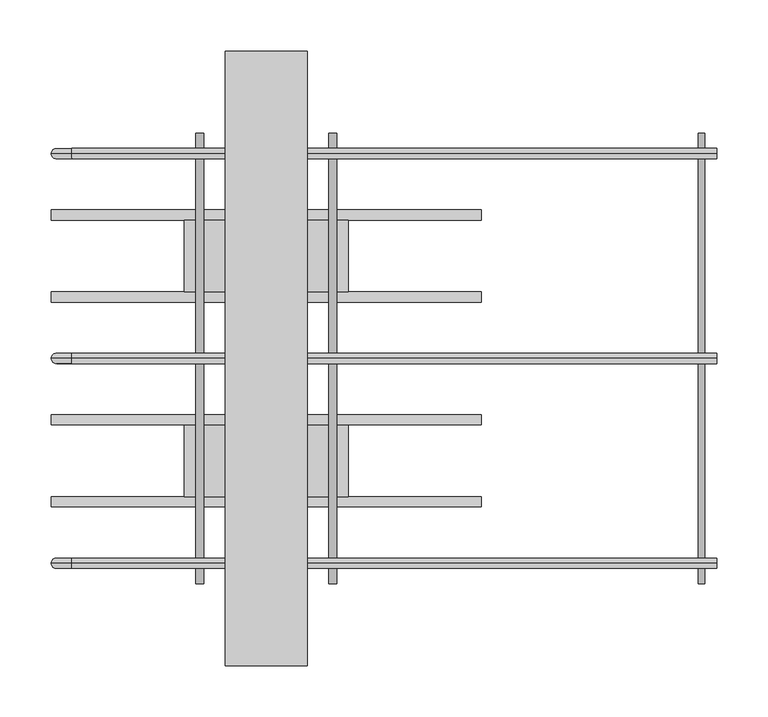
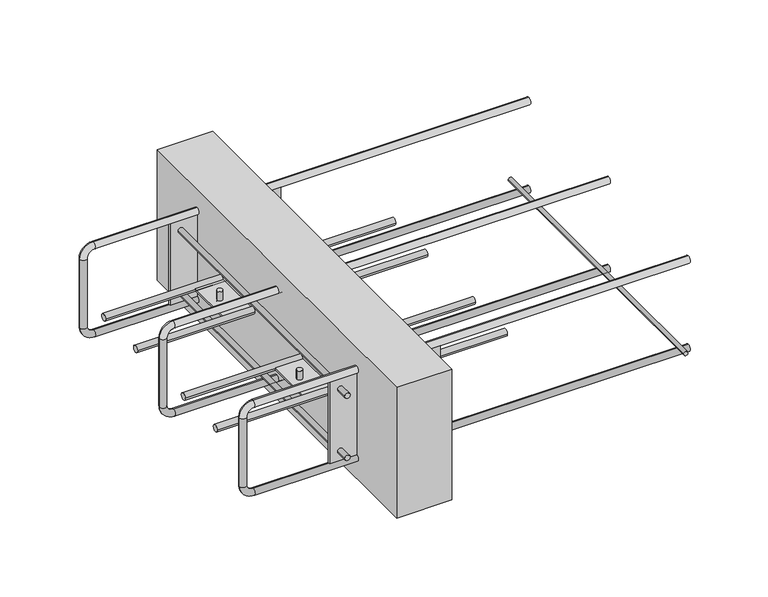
"""IFC4 building model written with IfcOpenShell, lengths in millimetres: proxy geometry, ACINOXplus_Typenreihe_Ux-Ox : UA+ S2."""

from ifc_helpers import new_model, si_unit, point, frame, frame_2d, origin, place, context, project, spatial, polyline, circle_curve, ellipse_curve, trimmed, segment, composite_curve, outline, extrude, source, transform, mapped, element, save
from ifc_brep_helpers import plane_surface, cylinder_surface, revolved_surface, advanced_brep


def generic_models_b1a7b40b(model_context):
    return source(origin(), model_context, "Body", "SolidModel", [
        extrude(outline(composite_curve([segment(trimmed(circle_curve(frame_2d((-159.5, 425.0)), 3.0), [point((-159.5, 428.0))], [point((-159.5, 422.0))], False, "CARTESIAN"), True, "CONTINUOUS"), segment(trimmed(circle_curve(frame_2d((-159.5, 425.0)), 3.0), [point((-159.5, 422.0))], [point((-159.5, 428.0))], False, "CARTESIAN"), True, "CONTINUOUS")], self_intersect=False)), frame((0.0, -220.0, 0.0), z_axis=(0.0, 1.0, 0.0), x_axis=(0.0, 0.0, 1.0)), (0.0, 0.0, 1.0), 440.0),
        extrude(outline(composite_curve([segment(trimmed(circle_curve(frame_2d((-140.0, -100.0)), 5.0), [point((-145.0, -100.0))], [point((-135.0, -100.0))], False, "CARTESIAN"), True, "CONTINUOUS"), segment(trimmed(circle_curve(frame_2d((-140.0, -100.0)), 5.0), [point((-135.0, -100.0))], [point((-145.0, -100.0))], False, "CARTESIAN"), True, "CONTINUOUS")], self_intersect=False)), frame((-210.0, 0.0, 0.0), z_axis=(1.0, 0.0, 0.0), x_axis=(0.0, 1.0, 0.0)), (0.0, 0.0, 1.0), 420.0),
        extrude(outline(composite_curve([segment(trimmed(circle_curve(frame_2d((-60.0, -100.0)), 5.0), [point((-65.0, -100.0))], [point((-55.0, -100.0))], False, "CARTESIAN"), True, "CONTINUOUS"), segment(trimmed(circle_curve(frame_2d((-60.0, -100.0)), 5.0), [point((-55.0, -100.0))], [point((-65.0, -100.0))], False, "CARTESIAN"), True, "CONTINUOUS")], self_intersect=False)), frame((-210.0, 0.0, 0.0), z_axis=(1.0, 0.0, 0.0), x_axis=(0.0, 1.0, 0.0)), (0.0, 0.0, 1.0), 420.0),
        extrude(outline(composite_curve([segment(trimmed(circle_curve(frame_2d((-65.0, -100.0)), 4.0), [point((-61.0, -100.0))], [point((-69.0, -100.0))], False, "CARTESIAN"), True, "CONTINUOUS"), segment(trimmed(circle_curve(frame_2d((-65.0, -100.0)), 4.0), [point((-69.0, -100.0))], [point((-61.0, -100.0))], False, "CARTESIAN"), True, "CONTINUOUS")], self_intersect=False)), frame((0.0, 0.0, -98.5), z_axis=(0.0, 0.0, 1.0), x_axis=(1.0, 0.0, 0.0)), (0.0, 0.0, 1.0), 13.5),
        extrude(outline(composite_curve([segment(trimmed(circle_curve(frame_2d((65.0, -100.0)), 4.0), [point((69.0, -100.0))], [point((61.0, -100.0))], False, "CARTESIAN"), True, "CONTINUOUS"), segment(trimmed(circle_curve(frame_2d((65.0, -100.0)), 4.0), [point((61.0, -100.0))], [point((69.0, -100.0))], False, "CARTESIAN"), True, "CONTINUOUS")], self_intersect=False)), frame((0.0, 0.0, -98.5), z_axis=(0.0, 0.0, 1.0), x_axis=(1.0, 0.0, 0.0)), (0.0, 0.0, 1.0), 13.5),
        extrude(outline(composite_curve([segment(trimmed(circle_curve(frame_2d((-65.0, -100.0)), 4.0), [point((-69.0, -100.0))], [point((-61.0, -100.0))], False, "CARTESIAN"), True, "CONTINUOUS"), segment(trimmed(circle_curve(frame_2d((-65.0, -100.0)), 4.0), [point((-61.0, -100.0))], [point((-69.0, -100.0))], False, "CARTESIAN"), True, "CONTINUOUS")], self_intersect=False)), frame((0.0, 0.0, -115.0), z_axis=(0.0, 0.0, 1.0), x_axis=(1.0, 0.0, 0.0)), (0.0, 0.0, 1.0), 13.5),
        extrude(outline(composite_curve([segment(trimmed(circle_curve(frame_2d((65.0, -100.0)), 4.0), [point((61.0, -100.0))], [point((69.0, -100.0))], False, "CARTESIAN"), True, "CONTINUOUS"), segment(trimmed(circle_curve(frame_2d((65.0, -100.0)), 4.0), [point((69.0, -100.0))], [point((61.0, -100.0))], False, "CARTESIAN"), True, "CONTINUOUS")], self_intersect=False)), frame((0.0, 0.0, -115.0), z_axis=(0.0, 0.0, 1.0), x_axis=(1.0, 0.0, 0.0)), (0.0, 0.0, 1.0), 13.5),
        extrude(outline(polyline([(80.0, -65.0), (80.0, -135.0), (-80.0, -135.0), (-80.0, -65.0), (80.0, -65.0)])), frame((0.0, 0.0, -101.5), z_axis=(0.0, 0.0, 1.0), x_axis=(1.0, 0.0, 0.0)), (0.0, 0.0, 1.0), 3.0),
        extrude(outline(composite_curve([segment(trimmed(circle_curve(frame_2d((60.0, -100.0)), 5.0), [point((55.0, -100.0))], [point((65.0, -100.0))], False, "CARTESIAN"), True, "CONTINUOUS"), segment(trimmed(circle_curve(frame_2d((60.0, -100.0)), 5.0), [point((65.0, -100.0))], [point((55.0, -100.0))], False, "CARTESIAN"), True, "CONTINUOUS")], self_intersect=False)), frame((-210.0, 0.0, 0.0), z_axis=(1.0, 0.0, 0.0), x_axis=(0.0, 1.0, 0.0)), (0.0, 0.0, 1.0), 420.0),
        extrude(outline(composite_curve([segment(trimmed(circle_curve(frame_2d((140.0, -100.0)), 5.0), [point((135.0, -100.0))], [point((145.0, -100.0))], False, "CARTESIAN"), True, "CONTINUOUS"), segment(trimmed(circle_curve(frame_2d((140.0, -100.0)), 5.0), [point((145.0, -100.0))], [point((135.0, -100.0))], False, "CARTESIAN"), True, "CONTINUOUS")], self_intersect=False)), frame((-210.0, 0.0, 0.0), z_axis=(1.0, 0.0, 0.0), x_axis=(0.0, 1.0, 0.0)), (0.0, 0.0, 1.0), 420.0),
        extrude(outline(composite_curve([segment(trimmed(circle_curve(frame_2d((-65.0, 100.0)), 4.0), [point((-61.0, 100.0))], [point((-69.0, 100.0))], False, "CARTESIAN"), True, "CONTINUOUS"), segment(trimmed(circle_curve(frame_2d((-65.0, 100.0)), 4.0), [point((-69.0, 100.0))], [point((-61.0, 100.0))], False, "CARTESIAN"), True, "CONTINUOUS")], self_intersect=False)), frame((0.0, 0.0, -98.5), z_axis=(0.0, 0.0, 1.0), x_axis=(1.0, 0.0, 0.0)), (0.0, 0.0, 1.0), 13.5),
        extrude(outline(composite_curve([segment(trimmed(circle_curve(frame_2d((65.0, 100.0)), 4.0), [point((69.0, 100.0))], [point((61.0, 100.0))], False, "CARTESIAN"), True, "CONTINUOUS"), segment(trimmed(circle_curve(frame_2d((65.0, 100.0)), 4.0), [point((61.0, 100.0))], [point((69.0, 100.0))], False, "CARTESIAN"), True, "CONTINUOUS")], self_intersect=False)), frame((0.0, 0.0, -98.5), z_axis=(0.0, 0.0, 1.0), x_axis=(1.0, 0.0, 0.0)), (0.0, 0.0, 1.0), 13.5),
        extrude(outline(composite_curve([segment(trimmed(circle_curve(frame_2d((-65.0, 100.0)), 4.0), [point((-69.0, 100.0))], [point((-61.0, 100.0))], False, "CARTESIAN"), True, "CONTINUOUS"), segment(trimmed(circle_curve(frame_2d((-65.0, 100.0)), 4.0), [point((-61.0, 100.0))], [point((-69.0, 100.0))], False, "CARTESIAN"), True, "CONTINUOUS")], self_intersect=False)), frame((0.0, 0.0, -115.0), z_axis=(0.0, 0.0, 1.0), x_axis=(1.0, 0.0, 0.0)), (0.0, 0.0, 1.0), 13.5),
        extrude(outline(composite_curve([segment(trimmed(circle_curve(frame_2d((65.0, 100.0)), 4.0), [point((61.0, 100.0))], [point((69.0, 100.0))], False, "CARTESIAN"), True, "CONTINUOUS"), segment(trimmed(circle_curve(frame_2d((65.0, 100.0)), 4.0), [point((69.0, 100.0))], [point((61.0, 100.0))], False, "CARTESIAN"), True, "CONTINUOUS")], self_intersect=False)), frame((0.0, 0.0, -115.0), z_axis=(0.0, 0.0, 1.0), x_axis=(1.0, 0.0, 0.0)), (0.0, 0.0, 1.0), 13.5),
        extrude(outline(polyline([(80.0, 135.0), (80.0, 65.0), (-80.0, 65.0), (-80.0, 135.0), (80.0, 135.0)])), frame((0.0, 0.0, -101.5), z_axis=(0.0, 0.0, 1.0), x_axis=(1.0, 0.0, 0.0)), (0.0, 0.0, 1.0), 3.0),
        extrude(outline(polyline([(40.0, 300.0), (40.0, -300.0), (-40.0, -300.0), (-40.0, 300.0), (40.0, 300.0)])), frame((0.0, 0.0, -200.0), z_axis=(0.0, 0.0, 1.0), x_axis=(1.0, 0.0, 0.0)), (0.0, 0.0, 1.0), 200.0),
        extrude(outline(polyline([(80.0, -198.5), (80.0, -201.5), (-80.0, -201.5), (-80.0, -198.5), (80.0, -198.5)])), frame((0.0, 0.0, -162.5), z_axis=(0.0, 0.0, 1.0), x_axis=(1.0, 0.0, 0.0)), (0.0, 0.0, 1.0), 125.0),
        extrude(outline(polyline([(80.0, 201.5), (80.0, 198.5), (-80.0, 198.5), (-80.0, 201.5), (80.0, 201.5)])), frame((0.0, 0.0, -162.5), z_axis=(0.0, 0.0, 1.0), x_axis=(1.0, 0.0, 0.0)), (0.0, 0.0, 1.0), 125.0),
        extrude(outline(composite_curve([segment(trimmed(circle_curve(frame_2d((-147.5, -65.0)), 4.0), [point((-147.5, -69.0))], [point((-147.5, -61.0))], False, "CARTESIAN"), True, "CONTINUOUS"), segment(trimmed(circle_curve(frame_2d((-147.5, -65.0)), 4.0), [point((-147.5, -61.0))], [point((-147.5, -69.0))], False, "CARTESIAN"), True, "CONTINUOUS")], self_intersect=False)), frame((0.0, 201.5, 0.0), z_axis=(0.0, 1.0, 0.0), x_axis=(0.0, 0.0, 1.0)), (0.0, 0.0, 1.0), 18.5),
        extrude(outline(composite_curve([segment(trimmed(circle_curve(frame_2d((-147.5, -65.0)), 4.0), [point((-147.5, -61.0))], [point((-147.5, -69.0))], False, "CARTESIAN"), True, "CONTINUOUS"), segment(trimmed(circle_curve(frame_2d((-147.5, -65.0)), 4.0), [point((-147.5, -69.0))], [point((-147.5, -61.0))], False, "CARTESIAN"), True, "CONTINUOUS")], self_intersect=False)), frame((0.0, -220.0, 0.0), z_axis=(0.0, 1.0, 0.0), x_axis=(0.0, 0.0, 1.0)), (0.0, 0.0, 1.0), 18.5),
        extrude(outline(composite_curve([segment(trimmed(circle_curve(frame_2d((-147.5, -65.0)), 4.0), [point((-147.5, -69.0))], [point((-147.5, -61.0))], False, "CARTESIAN"), True, "CONTINUOUS"), segment(trimmed(circle_curve(frame_2d((-147.5, -65.0)), 4.0), [point((-147.5, -61.0))], [point((-147.5, -69.0))], False, "CARTESIAN"), True, "CONTINUOUS")], self_intersect=False)), frame((0.0, -198.5, 0.0), z_axis=(0.0, 1.0, 0.0), x_axis=(0.0, 0.0, 1.0)), (0.0, 0.0, 1.0), 397.0),
        extrude(outline(composite_curve([segment(trimmed(circle_curve(frame_2d((-147.5, 65.0)), 4.0), [point((-147.5, 61.0))], [point((-147.5, 69.0))], False, "CARTESIAN"), True, "CONTINUOUS"), segment(trimmed(circle_curve(frame_2d((-147.5, 65.0)), 4.0), [point((-147.5, 69.0))], [point((-147.5, 61.0))], False, "CARTESIAN"), True, "CONTINUOUS")], self_intersect=False)), frame((0.0, 201.5, 0.0), z_axis=(0.0, 1.0, 0.0), x_axis=(0.0, 0.0, 1.0)), (0.0, 0.0, 1.0), 18.5),
        extrude(outline(composite_curve([segment(trimmed(circle_curve(frame_2d((-147.5, 65.0)), 4.0), [point((-147.5, 69.0))], [point((-147.5, 61.0))], False, "CARTESIAN"), True, "CONTINUOUS"), segment(trimmed(circle_curve(frame_2d((-147.5, 65.0)), 4.0), [point((-147.5, 61.0))], [point((-147.5, 69.0))], False, "CARTESIAN"), True, "CONTINUOUS")], self_intersect=False)), frame((0.0, -220.0, 0.0), z_axis=(0.0, 1.0, 0.0), x_axis=(0.0, 0.0, 1.0)), (0.0, 0.0, 1.0), 18.5),
        extrude(outline(composite_curve([segment(trimmed(circle_curve(frame_2d((-147.5, 65.0)), 4.0), [point((-147.5, 61.0))], [point((-147.5, 69.0))], False, "CARTESIAN"), True, "CONTINUOUS"), segment(trimmed(circle_curve(frame_2d((-147.5, 65.0)), 4.0), [point((-147.5, 69.0))], [point((-147.5, 61.0))], False, "CARTESIAN"), True, "CONTINUOUS")], self_intersect=False)), frame((0.0, -198.5, 0.0), z_axis=(0.0, 1.0, 0.0), x_axis=(0.0, 0.0, 1.0)), (0.0, 0.0, 1.0), 397.0),
        extrude(outline(composite_curve([segment(trimmed(circle_curve(frame_2d((-52.5, -65.0)), 4.0), [point((-52.5, -69.0))], [point((-52.5, -61.0))], False, "CARTESIAN"), True, "CONTINUOUS"), segment(trimmed(circle_curve(frame_2d((-52.5, -65.0)), 4.0), [point((-52.5, -61.0))], [point((-52.5, -69.0))], False, "CARTESIAN"), True, "CONTINUOUS")], self_intersect=False)), frame((0.0, 201.5, 0.0), z_axis=(0.0, 1.0, 0.0), x_axis=(0.0, 0.0, 1.0)), (0.0, 0.0, 1.0), 18.5),
        extrude(outline(composite_curve([segment(trimmed(circle_curve(frame_2d((-52.5, -65.0)), 4.0), [point((-52.5, -61.0))], [point((-52.5, -69.0))], False, "CARTESIAN"), True, "CONTINUOUS"), segment(trimmed(circle_curve(frame_2d((-52.5, -65.0)), 4.0), [point((-52.5, -69.0))], [point((-52.5, -61.0))], False, "CARTESIAN"), True, "CONTINUOUS")], self_intersect=False)), frame((0.0, -220.0, 0.0), z_axis=(0.0, 1.0, 0.0), x_axis=(0.0, 0.0, 1.0)), (0.0, 0.0, 1.0), 18.5),
        extrude(outline(composite_curve([segment(trimmed(circle_curve(frame_2d((-52.5, -65.0)), 4.0), [point((-52.5, -69.0))], [point((-52.5, -61.0))], False, "CARTESIAN"), True, "CONTINUOUS"), segment(trimmed(circle_curve(frame_2d((-52.5, -65.0)), 4.0), [point((-52.5, -61.0))], [point((-52.5, -69.0))], False, "CARTESIAN"), True, "CONTINUOUS")], self_intersect=False)), frame((0.0, -198.5, 0.0), z_axis=(0.0, 1.0, 0.0), x_axis=(0.0, 0.0, 1.0)), (0.0, 0.0, 1.0), 397.0),
        extrude(outline(composite_curve([segment(trimmed(circle_curve(frame_2d((-52.5, 65.0)), 4.0), [point((-52.5, 61.0))], [point((-52.5, 69.0))], False, "CARTESIAN"), True, "CONTINUOUS"), segment(trimmed(circle_curve(frame_2d((-52.5, 65.0)), 4.0), [point((-52.5, 69.0))], [point((-52.5, 61.0))], False, "CARTESIAN"), True, "CONTINUOUS")], self_intersect=False)), frame((0.0, 201.5, 0.0), z_axis=(0.0, 1.0, 0.0), x_axis=(0.0, 0.0, 1.0)), (0.0, 0.0, 1.0), 18.5),
        extrude(outline(composite_curve([segment(trimmed(circle_curve(frame_2d((-52.5, 65.0)), 4.0), [point((-52.5, 69.0))], [point((-52.5, 61.0))], False, "CARTESIAN"), True, "CONTINUOUS"), segment(trimmed(circle_curve(frame_2d((-52.5, 65.0)), 4.0), [point((-52.5, 61.0))], [point((-52.5, 69.0))], False, "CARTESIAN"), True, "CONTINUOUS")], self_intersect=False)), frame((0.0, -220.0, 0.0), z_axis=(0.0, 1.0, 0.0), x_axis=(0.0, 0.0, 1.0)), (0.0, 0.0, 1.0), 18.5),
        extrude(outline(composite_curve([segment(trimmed(circle_curve(frame_2d((-52.5, 65.0)), 4.0), [point((-52.5, 61.0))], [point((-52.5, 69.0))], False, "CARTESIAN"), True, "CONTINUOUS"), segment(trimmed(circle_curve(frame_2d((-52.5, 65.0)), 4.0), [point((-52.5, 69.0))], [point((-52.5, 61.0))], False, "CARTESIAN"), True, "CONTINUOUS")], self_intersect=False)), frame((0.0, -198.5, 0.0), z_axis=(0.0, 1.0, 0.0), x_axis=(0.0, 0.0, 1.0)), (0.0, 0.0, 1.0), 397.0),
        advanced_brep(
        [(440.0, 0.0, -27.5), (440.0, 0.0, -37.5), (-190.0, 0.0, -27.5), (-190.0, 0.0, -37.5), (-200.0, 0.0, -47.5), (-210.0, 0.0, -47.5), (-210.0, 0.0, -152.5), (-200.0, 0.0, -152.5), (-190.0, 0.0, -162.5), (-190.0, 0.0, -172.5), (440.0, 0.0, -172.5), (440.0, 0.0, -162.5)],
        [
            (0, 1, circle_curve(frame((440.0, 0.0, -32.5), z_axis=(1.0, 0.0, 0.0), x_axis=(0.0, 0.0, -1.0)), 5.0)),
            (1, 0, circle_curve(frame((440.0, 0.0, -32.5), z_axis=(1.0, 0.0, 0.0), x_axis=(0.0, 0.0, -1.0)), 5.0)),
            (0, 2),
            (2, 3, circle_curve(frame((-190.0, 0.0, -32.5), z_axis=(1.0, 0.0, 0.0), x_axis=(0.0, 0.0, -1.0)), 5.0)),
            (3, 1),
            (3, 2, circle_curve(frame((-190.0, 0.0, -32.5), z_axis=(1.0, 0.0, 0.0), x_axis=(0.0, 0.0, -1.0)), 5.0)),
            (4, 3, circle_curve(frame((-190.0, 0.0, -47.5), z_axis=(0.0, 1.0, 0.0), x_axis=(0.0, 0.0, 1.0)), 10.0)),
            (2, 5, circle_curve(frame((-190.0, 0.0, -47.5), z_axis=(0.0, -1.0, 0.0), x_axis=(0.0, 0.0, 1.0)), 20.0)),
            (5, 4, circle_curve(frame((-205.0, 0.0, -47.5), z_axis=(0.0, 0.0, 1.0), x_axis=(1.0, 0.0, 0.0)), 5.0)),
            (4, 5, circle_curve(frame((-205.0, 0.0, -47.5), z_axis=(0.0, 0.0, 1.0), x_axis=(1.0, 0.0, 0.0)), 5.0)),
            (5, 6),
            (6, 7, circle_curve(frame((-205.0, 0.0, -152.5), z_axis=(0.0, 0.0, 1.0), x_axis=(1.0, 0.0, 0.0)), 5.0)),
            (7, 4),
            (7, 6, circle_curve(frame((-205.0, 0.0, -152.5), z_axis=(0.0, 0.0, 1.0), x_axis=(1.0, 0.0, 0.0)), 5.0)),
            (8, 7, circle_curve(frame((-190.0, 0.0, -152.5), z_axis=(0.0, 1.0, 0.0), x_axis=(-1.0, 0.0, 0.0)), 10.0)),
            (6, 9, circle_curve(frame((-190.0, 0.0, -152.5), z_axis=(0.0, -1.0, 0.0), x_axis=(-1.0, 0.0, 0.0)), 20.0)),
            (9, 8, circle_curve(frame((-190.0, 0.0, -167.5), z_axis=(-1.0, 0.0, 0.0), x_axis=(0.0, 0.0, 1.0)), 5.0)),
            (8, 9, circle_curve(frame((-190.0, 0.0, -167.5), z_axis=(-1.0, 0.0, 0.0), x_axis=(0.0, 0.0, 1.0)), 5.0)),
            (10, 11, circle_curve(frame((440.0, 0.0, -167.5), z_axis=(1.0, 0.0, 0.0), x_axis=(0.0, 0.0, 1.0)), 5.0)),
            (11, 10, circle_curve(frame((440.0, 0.0, -167.5), z_axis=(1.0, 0.0, 0.0), x_axis=(0.0, 0.0, 1.0)), 5.0)),
            (9, 10),
            (11, 8),
        ],
        [
            plane_surface(frame((440.0, 0.0, -32.5), z_axis=(1.0, 0.0, 0.0), x_axis=(0.0, -1.0, 0.0))),
            cylinder_surface(frame((440.0, 0.0, -32.5), z_axis=(1.0, 0.0, 0.0), x_axis=(0.0, 0.0, -1.0)), 5.0),
            revolved_surface(trimmed(ellipse_curve(frame((-190.0, 0.0, -32.5), z_axis=(1.0, 0.0, 0.0), x_axis=(0.0, 0.0, -1.0)), 5.0, 5.0), [point((-190.0, 0.0, -27.5))], [point((-190.0, 0.0, -37.5))], True, "CARTESIAN"), (-190.0, 0.0, -47.5), (0.0, -1.0, 0.0)),
            revolved_surface(trimmed(ellipse_curve(frame((-190.0, 0.0, -32.5), z_axis=(1.0, 0.0, 0.0), x_axis=(0.0, 0.0, -1.0)), 5.0, 5.0), [point((-190.0, 0.0, -37.5))], [point((-190.0, 0.0, -27.5))], True, "CARTESIAN"), (-190.0, 0.0, -47.5), (0.0, -1.0, 0.0)),
            cylinder_surface(frame((-205.0, 0.0, -47.5), z_axis=(0.0, 0.0, 1.0), x_axis=(1.0, 0.0, 0.0)), 5.0),
            revolved_surface(trimmed(ellipse_curve(frame((-205.0, 0.0, -152.5), z_axis=(0.0, 0.0, 1.0), x_axis=(1.0, 0.0, 0.0)), 5.0, 5.0), [point((-210.0, 0.0, -152.5))], [point((-200.0, 0.0, -152.5))], True, "CARTESIAN"), (-190.0, 0.0, -152.5), (0.0, -1.0, 0.0)),
            revolved_surface(trimmed(ellipse_curve(frame((-205.0, 0.0, -152.5), z_axis=(0.0, 0.0, 1.0), x_axis=(1.0, 0.0, 0.0)), 5.0, 5.0), [point((-200.0, 0.0, -152.5))], [point((-210.0, 0.0, -152.5))], True, "CARTESIAN"), (-190.0, 0.0, -152.5), (0.0, -1.0, 0.0)),
            plane_surface(frame((440.0, 0.0, -167.5), z_axis=(1.0, 0.0, 0.0), x_axis=(0.0, -1.0, 0.0))),
            cylinder_surface(frame((-190.0, 0.0, -167.5), z_axis=(-1.0, 0.0, 0.0), x_axis=(0.0, 0.0, 1.0)), 5.0),
        ],
        [
            (0, [[1, 2]]),
            (1, [[-1, 3, 4, 5]]),
            (1, [[-2, -5, 6, -3]]),
            (2, [[7, -4, 8, 9]]),
            (3, [[-8, -6, -7, 10]]),
            (4, [[-9, 11, 12, 13]]),
            (4, [[-10, -13, 14, -11]]),
            (5, [[15, -12, 16, 17]]),
            (6, [[-16, -14, -15, 18]]),
            (7, [[19, 20]]),
            (8, [[-17, 21, -20, 22]]),
            (8, [[-18, -22, -19, -21]]),
        ],
    ),
        advanced_brep(
        [(440.0, 200.0, -27.5), (440.0, 200.0, -37.5), (-190.0, 200.0, -27.5), (-190.0, 200.0, -37.5), (-200.0, 200.0, -47.5), (-210.0, 200.0, -47.5), (-210.0, 200.0, -152.5), (-200.0, 200.0, -152.5), (-190.0, 200.0, -162.5), (-190.0, 200.0, -172.5), (440.0, 200.0, -172.5), (440.0, 200.0, -162.5)],
        [
            (0, 1, circle_curve(frame((440.0, 200.0, -32.5), z_axis=(1.0, 0.0, 0.0), x_axis=(0.0, 0.0, -1.0)), 5.0)),
            (1, 0, circle_curve(frame((440.0, 200.0, -32.5), z_axis=(1.0, 0.0, 0.0), x_axis=(0.0, 0.0, -1.0)), 5.0)),
            (0, 2),
            (2, 3, circle_curve(frame((-190.0, 200.0, -32.5), z_axis=(1.0, 0.0, 0.0), x_axis=(0.0, 0.0, -1.0)), 5.0)),
            (3, 1),
            (3, 2, circle_curve(frame((-190.0, 200.0, -32.5), z_axis=(1.0, 0.0, 0.0), x_axis=(0.0, 0.0, -1.0)), 5.0)),
            (4, 3, circle_curve(frame((-190.0, 200.0, -47.5), z_axis=(0.0, 1.0, 0.0), x_axis=(0.0, 0.0, 1.0)), 10.0)),
            (2, 5, circle_curve(frame((-190.0, 200.0, -47.5), z_axis=(0.0, -1.0, 0.0), x_axis=(0.0, 0.0, 1.0)), 20.0)),
            (5, 4, circle_curve(frame((-205.0, 200.0, -47.5), z_axis=(0.0, 0.0, 1.0), x_axis=(1.0, 0.0, 0.0)), 5.0)),
            (4, 5, circle_curve(frame((-205.0, 200.0, -47.5), z_axis=(0.0, 0.0, 1.0), x_axis=(1.0, 0.0, 0.0)), 5.0)),
            (5, 6),
            (6, 7, circle_curve(frame((-205.0, 200.0, -152.5), z_axis=(0.0, 0.0, 1.0), x_axis=(1.0, 0.0, 0.0)), 5.0)),
            (7, 4),
            (7, 6, circle_curve(frame((-205.0, 200.0, -152.5), z_axis=(0.0, 0.0, 1.0), x_axis=(1.0, 0.0, 0.0)), 5.0)),
            (8, 7, circle_curve(frame((-190.0, 200.0, -152.5), z_axis=(0.0, 1.0, 0.0), x_axis=(-1.0, 0.0, 0.0)), 10.0)),
            (6, 9, circle_curve(frame((-190.0, 200.0, -152.5), z_axis=(0.0, -1.0, 0.0), x_axis=(-1.0, 0.0, 0.0)), 20.0)),
            (9, 8, circle_curve(frame((-190.0, 200.0, -167.5), z_axis=(-1.0, 0.0, 0.0), x_axis=(0.0, 0.0, 1.0)), 5.0)),
            (8, 9, circle_curve(frame((-190.0, 200.0, -167.5), z_axis=(-1.0, 0.0, 0.0), x_axis=(0.0, 0.0, 1.0)), 5.0)),
            (10, 11, circle_curve(frame((440.0, 200.0, -167.5), z_axis=(1.0, 0.0, 0.0), x_axis=(0.0, 0.0, 1.0)), 5.0)),
            (11, 10, circle_curve(frame((440.0, 200.0, -167.5), z_axis=(1.0, 0.0, 0.0), x_axis=(0.0, 0.0, 1.0)), 5.0)),
            (9, 10),
            (11, 8),
        ],
        [
            plane_surface(frame((440.0, 200.0, -32.5), z_axis=(1.0, 0.0, 0.0), x_axis=(0.0, -1.0, 0.0))),
            cylinder_surface(frame((440.0, 200.0, -32.5), z_axis=(1.0, 0.0, 0.0), x_axis=(0.0, 0.0, -1.0)), 5.0),
            revolved_surface(trimmed(ellipse_curve(frame((-190.0, 200.0, -32.5), z_axis=(1.0, 0.0, 0.0), x_axis=(0.0, 0.0, -1.0)), 5.0, 5.0), [point((-190.0, 200.0, -27.5))], [point((-190.0, 200.0, -37.5))], True, "CARTESIAN"), (-190.0, 200.0, -47.5), (0.0, -1.0, 0.0)),
            revolved_surface(trimmed(ellipse_curve(frame((-190.0, 200.0, -32.5), z_axis=(1.0, 0.0, 0.0), x_axis=(0.0, 0.0, -1.0)), 5.0, 5.0), [point((-190.0, 200.0, -37.5))], [point((-190.0, 200.0, -27.5))], True, "CARTESIAN"), (-190.0, 200.0, -47.5), (0.0, -1.0, 0.0)),
            cylinder_surface(frame((-205.0, 200.0, -47.5), z_axis=(0.0, 0.0, 1.0), x_axis=(1.0, 0.0, 0.0)), 5.0),
            revolved_surface(trimmed(ellipse_curve(frame((-205.0, 200.0, -152.5), z_axis=(0.0, 0.0, 1.0), x_axis=(1.0, 0.0, 0.0)), 5.0, 5.0), [point((-210.0, 200.0, -152.5))], [point((-200.0, 200.0, -152.5))], True, "CARTESIAN"), (-190.0, 200.0, -152.5), (0.0, -1.0, 0.0)),
            revolved_surface(trimmed(ellipse_curve(frame((-205.0, 200.0, -152.5), z_axis=(0.0, 0.0, 1.0), x_axis=(1.0, 0.0, 0.0)), 5.0, 5.0), [point((-200.0, 200.0, -152.5))], [point((-210.0, 200.0, -152.5))], True, "CARTESIAN"), (-190.0, 200.0, -152.5), (0.0, -1.0, 0.0)),
            plane_surface(frame((440.0, 200.0, -167.5), z_axis=(1.0, 0.0, 0.0), x_axis=(0.0, -1.0, 0.0))),
            cylinder_surface(frame((-190.0, 200.0, -167.5), z_axis=(-1.0, 0.0, 0.0), x_axis=(0.0, 0.0, 1.0)), 5.0),
        ],
        [
            (0, [[1, 2]]),
            (1, [[-1, 3, 4, 5]]),
            (1, [[-2, -5, 6, -3]]),
            (2, [[7, -4, 8, 9]]),
            (3, [[-8, -6, -7, 10]]),
            (4, [[-9, 11, 12, 13]]),
            (4, [[-10, -13, 14, -11]]),
            (5, [[15, -12, 16, 17]]),
            (6, [[-16, -14, -15, 18]]),
            (7, [[19, 20]]),
            (8, [[-17, 21, -20, 22]]),
            (8, [[-18, -22, -19, -21]]),
        ],
    ),
        advanced_brep(
        [(440.0, -200.0, -27.5), (440.0, -200.0, -37.5), (-190.0, -200.0, -27.5), (-190.0, -200.0, -37.5), (-200.0, -200.0, -47.5), (-210.0, -200.0, -47.5), (-210.0, -200.0, -152.5), (-200.0, -200.0, -152.5), (-190.0, -200.0, -162.5), (-190.0, -200.0, -172.5), (440.0, -200.0, -172.5), (440.0, -200.0, -162.5)],
        [
            (0, 1, circle_curve(frame((440.0, -200.0, -32.5), z_axis=(1.0, 0.0, 0.0), x_axis=(0.0, 0.0, -1.0)), 5.0)),
            (1, 0, circle_curve(frame((440.0, -200.0, -32.5), z_axis=(1.0, 0.0, 0.0), x_axis=(0.0, 0.0, -1.0)), 5.0)),
            (0, 2),
            (2, 3, circle_curve(frame((-190.0, -200.0, -32.5), z_axis=(1.0, 0.0, 0.0), x_axis=(0.0, 0.0, -1.0)), 5.0)),
            (3, 1),
            (3, 2, circle_curve(frame((-190.0, -200.0, -32.5), z_axis=(1.0, 0.0, 0.0), x_axis=(0.0, 0.0, -1.0)), 5.0)),
            (4, 3, circle_curve(frame((-190.0, -200.0, -47.5), z_axis=(0.0, 1.0, 0.0), x_axis=(0.0, 0.0, 1.0)), 10.0)),
            (2, 5, circle_curve(frame((-190.0, -200.0, -47.5), z_axis=(0.0, -1.0, 0.0), x_axis=(0.0, 0.0, 1.0)), 20.0)),
            (5, 4, circle_curve(frame((-205.0, -200.0, -47.5), z_axis=(0.0, 0.0, 1.0), x_axis=(1.0, 0.0, 0.0)), 5.0)),
            (4, 5, circle_curve(frame((-205.0, -200.0, -47.5), z_axis=(0.0, 0.0, 1.0), x_axis=(1.0, 0.0, 0.0)), 5.0)),
            (5, 6),
            (6, 7, circle_curve(frame((-205.0, -200.0, -152.5), z_axis=(0.0, 0.0, 1.0), x_axis=(1.0, 0.0, 0.0)), 5.0)),
            (7, 4),
            (7, 6, circle_curve(frame((-205.0, -200.0, -152.5), z_axis=(0.0, 0.0, 1.0), x_axis=(1.0, 0.0, 0.0)), 5.0)),
            (8, 7, circle_curve(frame((-190.0, -200.0, -152.5), z_axis=(0.0, 1.0, 0.0), x_axis=(-1.0, 0.0, 0.0)), 10.0)),
            (6, 9, circle_curve(frame((-190.0, -200.0, -152.5), z_axis=(0.0, -1.0, 0.0), x_axis=(-1.0, 0.0, 0.0)), 20.0)),
            (9, 8, circle_curve(frame((-190.0, -200.0, -167.5), z_axis=(-1.0, 0.0, 0.0), x_axis=(0.0, 0.0, 1.0)), 5.0)),
            (8, 9, circle_curve(frame((-190.0, -200.0, -167.5), z_axis=(-1.0, 0.0, 0.0), x_axis=(0.0, 0.0, 1.0)), 5.0)),
            (10, 11, circle_curve(frame((440.0, -200.0, -167.5), z_axis=(1.0, 0.0, 0.0), x_axis=(0.0, 0.0, 1.0)), 5.0)),
            (11, 10, circle_curve(frame((440.0, -200.0, -167.5), z_axis=(1.0, 0.0, 0.0), x_axis=(0.0, 0.0, 1.0)), 5.0)),
            (9, 10),
            (11, 8),
        ],
        [
            plane_surface(frame((440.0, -200.0, -32.5), z_axis=(1.0, 0.0, 0.0), x_axis=(0.0, -1.0, 0.0))),
            cylinder_surface(frame((440.0, -200.0, -32.5), z_axis=(1.0, 0.0, 0.0), x_axis=(0.0, 0.0, -1.0)), 5.0),
            revolved_surface(trimmed(ellipse_curve(frame((-190.0, -200.0, -32.5), z_axis=(1.0, 0.0, 0.0), x_axis=(0.0, 0.0, -1.0)), 5.0, 5.0), [point((-190.0, -200.0, -27.5))], [point((-190.0, -200.0, -37.5))], True, "CARTESIAN"), (-190.0, -200.0, -47.5), (0.0, -1.0, 0.0)),
            revolved_surface(trimmed(ellipse_curve(frame((-190.0, -200.0, -32.5), z_axis=(1.0, 0.0, 0.0), x_axis=(0.0, 0.0, -1.0)), 5.0, 5.0), [point((-190.0, -200.0, -37.5))], [point((-190.0, -200.0, -27.5))], True, "CARTESIAN"), (-190.0, -200.0, -47.5), (0.0, -1.0, 0.0)),
            cylinder_surface(frame((-205.0, -200.0, -47.5), z_axis=(0.0, 0.0, 1.0), x_axis=(1.0, 0.0, 0.0)), 5.0),
            revolved_surface(trimmed(ellipse_curve(frame((-205.0, -200.0, -152.5), z_axis=(0.0, 0.0, 1.0), x_axis=(1.0, 0.0, 0.0)), 5.0, 5.0), [point((-210.0, -200.0, -152.5))], [point((-200.0, -200.0, -152.5))], True, "CARTESIAN"), (-190.0, -200.0, -152.5), (0.0, -1.0, 0.0)),
            revolved_surface(trimmed(ellipse_curve(frame((-205.0, -200.0, -152.5), z_axis=(0.0, 0.0, 1.0), x_axis=(1.0, 0.0, 0.0)), 5.0, 5.0), [point((-200.0, -200.0, -152.5))], [point((-210.0, -200.0, -152.5))], True, "CARTESIAN"), (-190.0, -200.0, -152.5), (0.0, -1.0, 0.0)),
            plane_surface(frame((440.0, -200.0, -167.5), z_axis=(1.0, 0.0, 0.0), x_axis=(0.0, -1.0, 0.0))),
            cylinder_surface(frame((-190.0, -200.0, -167.5), z_axis=(-1.0, 0.0, 0.0), x_axis=(0.0, 0.0, 1.0)), 5.0),
        ],
        [
            (0, [[1, 2]]),
            (1, [[-1, 3, 4, 5]]),
            (1, [[-2, -5, 6, -3]]),
            (2, [[7, -4, 8, 9]]),
            (3, [[-8, -6, -7, 10]]),
            (4, [[-9, 11, 12, 13]]),
            (4, [[-10, -13, 14, -11]]),
            (5, [[15, -12, 16, 17]]),
            (6, [[-16, -14, -15, 18]]),
            (7, [[19, 20]]),
            (8, [[-17, 21, -20, 22]]),
            (8, [[-18, -22, -19, -21]]),
        ],
    ),
    ])


if __name__ == "__main__":
    model = new_model("IFC4")
    model_context = context("Model", 3, world=origin())
    ifc_project = project(units=[si_unit("LENGTHUNIT", "METRE", prefix="MILLI")], contexts=[model_context])
    site = spatial("IfcSite", under=ifc_project)
    building = spatial("IfcBuilding", under=site)
    placement = place(None, origin())
    generic_models_shape = generic_models_b1a7b40b(model_context)
    element("IfcBuildingElementProxy", 1, Name="ACINOXplus_Typenreihe_Ux-Ox : UA+ S2", ObjectType="ACINOXplus_Typenreihe_Ux-Ox : UA+ S2", at=placement, inside=building, context=model_context, shape_type="MappedRepresentation", body=[
        mapped(generic_models_shape, transform((0.0, 0.0, 0.0), x_axis=(1.0, 0.0, 0.0), y_axis=(0.0, 1.0, 0.0), z_axis=(0.0, 0.0, 1.0))),
    ])
    save(model, "model.ifc")
